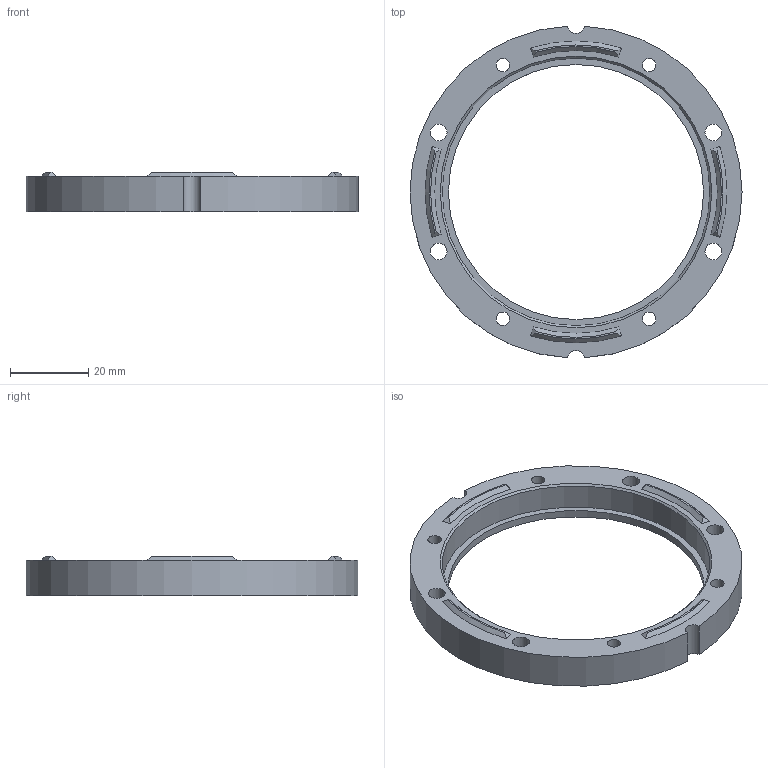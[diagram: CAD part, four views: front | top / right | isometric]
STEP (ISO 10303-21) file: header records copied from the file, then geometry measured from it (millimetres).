
FILE_DESCRIPTION(/* description */ ('Alibre Inc.'),/* implementation_level */ '2;1');
FILE_NAME(/* name */ 'export-347DB6E4-DEB7-41CE-B2B4-BDC4B5DA5E95',/* time_stamp */ '2026-01-19T12:38:25+00:00',/* author */ (''),/* organization */ (''),/* preprocessor_version */ 'ST-DEVELOPER v17',/* originating_system */ 'Alibre',/* authorisation */ '');
FILE_SCHEMA (('CONFIG_CONTROL_DESIGN'));
Length unit declared in the file: millimetre
Bounding box: 84.6 x 84.49 x 10 mm (x, y, z)
Volume: 17136.5 mm3; surface area: 9720.2 mm2
Topology: 1 solids, 1 shells, 62 faces, 133 edges, 86 vertices
Faces by surface type: plane 23, cylinder 22, cone 17
Full cylindrical faces by diameter (mm): 3.4 x4, 4.3 x4, 4.7 x4, 5.8 x4, 65 x1, 68.2 x1
Entity records: 1625 total; most frequent: CARTESIAN_POINT 281, DIRECTION 253, ORIENTED_EDGE 210, AXIS2_PLACEMENT_3D 128, EDGE_LOOP 120, FACE_BOUND 120, EDGE_CURVE 105, VERTEX_POINT 85
